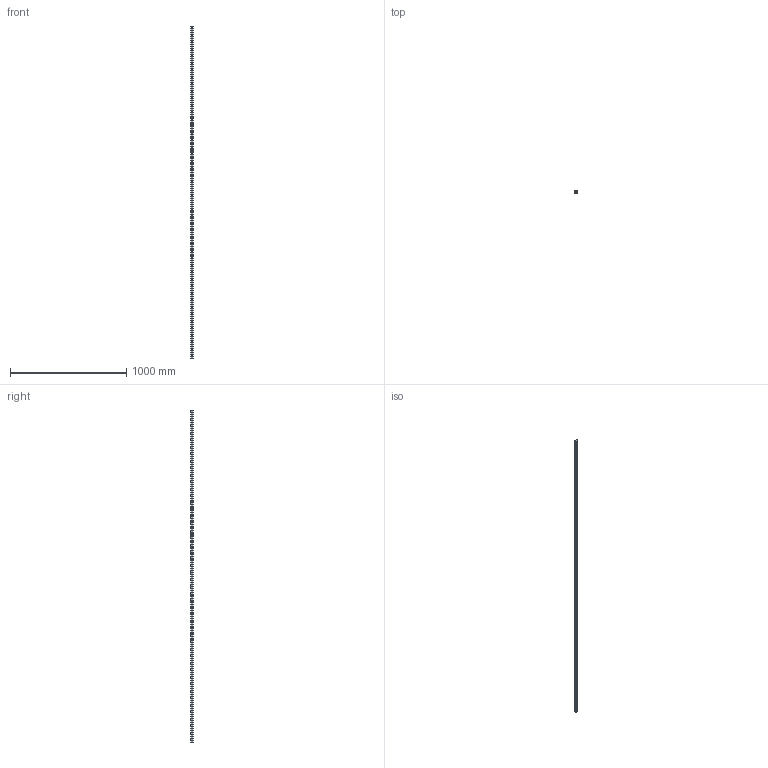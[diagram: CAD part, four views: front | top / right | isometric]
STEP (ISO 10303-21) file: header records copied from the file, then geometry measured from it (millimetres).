
FILE_DESCRIPTION (( 'STEP AP203' ), '1' );
FILE_NAME ('L1016.BL25-2860.step', '2019-06-12T12:12:53', ( '' ), ( '' ), 'SwSTEP 2.0', 'SolidWorks 2017', '' );
FILE_SCHEMA (( 'CONFIG_CONTROL_DESIGN' ));
Length unit declared in the file: millimetre
Products named in the file (1): L1016.BL25-2860
Bounding box: 23 x 19.2 x 2860 mm (x, y, z)
Volume: 1053935.1 mm3; surface area: 270633.5 mm2
Topology: 1 solids, 1 shells, 266 faces, 648 edges, 432 vertices
Faces by surface type: cylinder 196, plane 70
Entity records: 8293 total; most frequent: DIRECTION 1574, CARTESIAN_POINT 1347, ORIENTED_EDGE 1296, AXIS2_PLACEMENT_3D 659, EDGE_CURVE 648, VERTEX_POINT 432, EDGE_LOOP 410, CIRCLE 392
